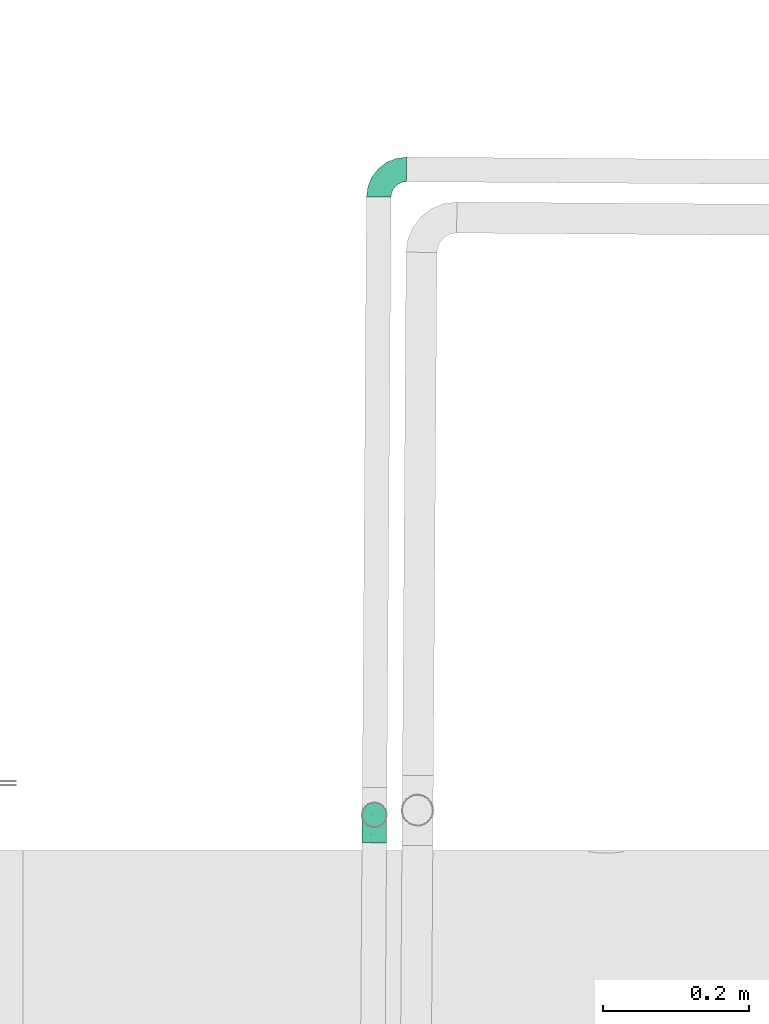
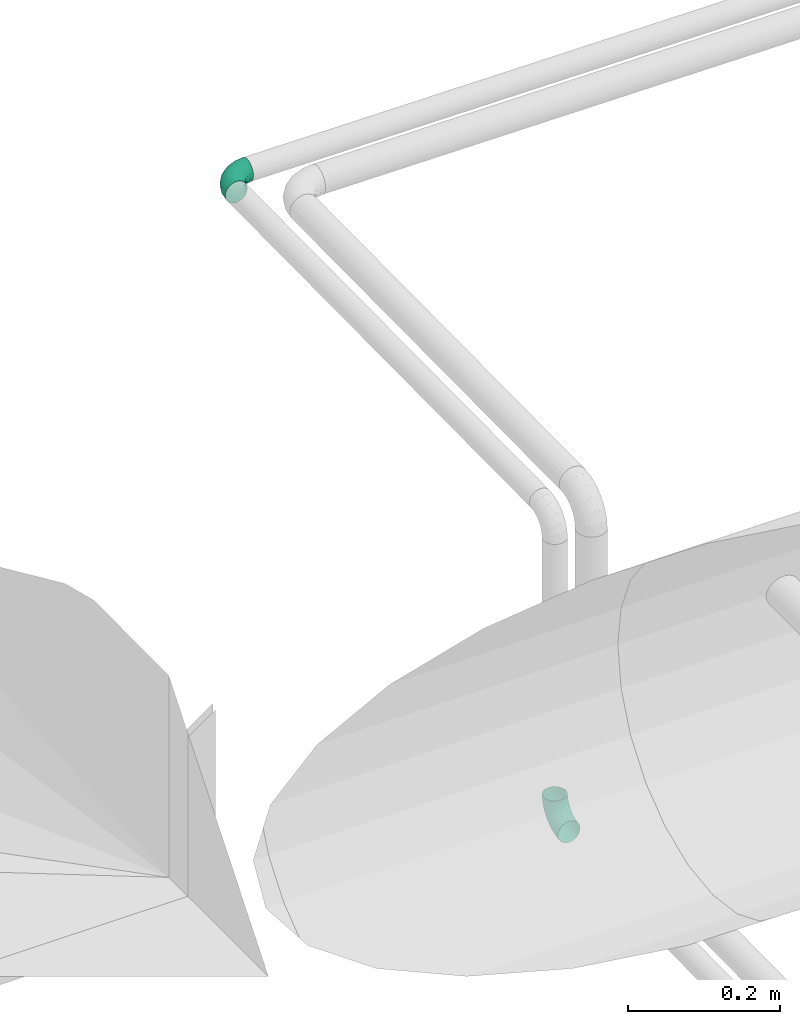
# One storey, part 356 of 374: 2 flow segments.
"""IFC2X3 building model written with IfcOpenShell, lengths in metres."""

from ifc_helpers import new_model, si_unit, direction, origin, place, context, subcontext, project, spatial, open_shell, surface_model, source, transform, mapped, element, save


model = new_model("IFC2X3")

# Units and contexts
model_context = context("Model", 3, precision=1e-05, world=origin(), true_north=direction((-0.4480736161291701, 0.8939966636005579)))
body_context = subcontext(model_context, "Body", "Model", "MODEL_VIEW")
ifc_project = project(units=[si_unit("LENGTHUNIT", "METRE"), si_unit("AREAUNIT", "SQUARE_METRE"), si_unit("VOLUMEUNIT", "CUBIC_METRE"), si_unit("PLANEANGLEUNIT", "RADIAN"), si_unit("THERMODYNAMICTEMPERATUREUNIT", "KELVIN"), si_unit("MASSUNIT", "GRAM", prefix="KILO"), si_unit("TIMEUNIT", "SECOND")], contexts=[model_context])

# Site, building, storey
site_placement = place(None, origin())
site = spatial("IfcSite", under=ifc_project, at=site_placement, Name="Site 1", CompositionType="ELEMENT")
building_placement = place(site_placement, origin())
building = spatial("IfcBuilding", under=site, at=building_placement, Name="Undefined", CompositionType="ELEMENT")
storey_placement = place(building_placement, origin())
storey = spatial("IfcBuildingStorey", under=building, at=storey_placement, Name="Rez de chauss\x8ee", CompositionType="ELEMENT", Elevation=0.0)

# Flow segments
shared_shape_1 = source(origin(), body_context, "Body", "SurfaceModel", [
    surface_model("IfcFaceBasedSurfaceModel", [(0.014318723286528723, 0.0, 8.8817842e-16), (0.01424378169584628, 0.004398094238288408, 0.0), (7.494159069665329e-05, 0.004398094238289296, 1.776356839e-15), (0.0, 0.0, 0.0), (-0.013611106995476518, 0.004872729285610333, -0.0036363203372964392), (-0.01383082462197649, 0.000479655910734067, -0.003674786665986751), (-0.02588168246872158, 0.005789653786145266, -0.010661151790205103), (-0.026231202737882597, 0.0014062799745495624, -0.010773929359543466), (-0.03590056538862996, 0.007086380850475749, -0.02059576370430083), (-0.036356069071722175, 0.0027167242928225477, -0.020813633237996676), (-0.04298498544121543, 0.008674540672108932, -0.03276312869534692), (-0.0435154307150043, 0.0043216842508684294, -0.03310970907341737), (-0.046652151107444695, 0.010445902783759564, -0.04633406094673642), (-0.04722138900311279, 0.006111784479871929, -0.04682419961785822), (0.01402406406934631, 0.008643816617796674, -0.00112889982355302), (0.0002946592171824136, 0.00864381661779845, -0.001128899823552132), (-0.01296692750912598, 0.009103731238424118, -0.00465244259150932), (-0.02485694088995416, 0.009992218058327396, -0.011459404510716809), (-0.03456509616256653, 0.011248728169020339, -0.021085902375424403), (-0.041429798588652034, 0.012787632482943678, -0.03287590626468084), (-0.04498323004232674, 0.014504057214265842, -0.04602594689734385), (0.013674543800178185, 0.012447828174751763, -0.0033097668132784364), (0.0006441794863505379, 0.012447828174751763, -0.003309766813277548), (-0.011942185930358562, 0.012884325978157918, -0.006653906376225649), (-0.023226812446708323, 0.013727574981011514, -0.01311428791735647), (-0.032440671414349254, 0.014920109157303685, -0.022250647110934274), (-0.038955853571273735, 0.016380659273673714, -0.03344035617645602), (-0.04232836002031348, 0.01800969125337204, -0.04592085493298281), (0.013219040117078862, 0.01555089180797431, -0.006393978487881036), (0.0010996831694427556, 0.015550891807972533, -0.006393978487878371), (-0.010606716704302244, 0.015956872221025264, -0.009504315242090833), (-0.021102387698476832, 0.016741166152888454, -0.01551302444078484), (-0.029672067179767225, 0.01785032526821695, -0.024010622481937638), (-0.035731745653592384, 0.01920876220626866, -0.03441801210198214), (-0.038868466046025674, 0.02072390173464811, -0.04602594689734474), (0.012688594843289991, 0.01774153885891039, -0.010171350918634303), (0.0016301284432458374, 0.01774153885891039, -0.010171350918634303), (-0.009051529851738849, 0.018111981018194, -0.013009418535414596), (-0.01862844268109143, 0.01882762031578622, -0.018492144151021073), (-0.026447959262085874, 0.019839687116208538, -0.02624588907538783), (-0.03197719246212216, 0.021079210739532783, -0.03574224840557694), (-0.034839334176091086, 0.022461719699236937, -0.04633406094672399), (0.012119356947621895, 0.018870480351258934, -0.014384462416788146), (0.0021993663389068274, 0.018870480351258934, -0.014384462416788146), (-0.007382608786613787, 0.019202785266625, -0.016930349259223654), (-0.015973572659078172, 0.019844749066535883, -0.021848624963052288), (-0.022988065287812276, 0.020752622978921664, -0.02880411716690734), (-0.027948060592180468, 0.021864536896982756, -0.03732282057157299), (-0.030515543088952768, 0.023104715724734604, -0.04682419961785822), (0.0115501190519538, 0.018860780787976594, -0.01874619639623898), (0.002768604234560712, 0.018860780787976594, -0.01874619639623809), (-0.005713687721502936, 0.019154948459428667, -0.020999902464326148), (-0.013318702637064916, 0.01972323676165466, -0.025353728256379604), (-0.019528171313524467, 0.02052691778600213, -0.03151096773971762), (-0.023918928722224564, 0.021511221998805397, -0.03905201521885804), (-0.02619175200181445, 0.02260907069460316, -0.04746296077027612), (0.011019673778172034, 0.01771310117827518, -0.022959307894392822), (0.0032990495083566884, 0.01771310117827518, -0.022959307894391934), (-0.004158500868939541, 0.017971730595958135, -0.0249407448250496), (-0.010844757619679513, 0.018471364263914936, -0.028768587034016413), (-0.01630406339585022, 0.019177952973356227, -0.03418197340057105), (-0.020164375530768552, 0.0200433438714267, -0.04081199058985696), (-0.022162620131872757, 0.02100856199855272, -0.04820681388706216), (0.010564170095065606, 0.015505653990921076, -0.02673668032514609), (0.0037545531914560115, 0.015505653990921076, -0.0267366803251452), (-0.002823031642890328, 0.01573376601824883, -0.028484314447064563), (-0.008720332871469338, 0.016174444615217, -0.03186048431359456), (-0.01353545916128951, 0.016797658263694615, -0.036635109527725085), (-0.016940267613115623, 0.017560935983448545, -0.042482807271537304), (-0.018702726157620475, 0.01841226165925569, -0.04900506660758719), (0.010214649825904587, 0.012388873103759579, -0.029820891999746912), (0.004104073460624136, 0.012388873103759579, -0.029820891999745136), (-0.0017982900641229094, 0.012593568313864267, -0.03138912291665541), (-0.007090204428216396, 0.012989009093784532, -0.03441871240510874), (-0.011411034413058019, 0.013548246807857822, -0.0387031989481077), (-0.014466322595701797, 0.014233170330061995, -0.04395060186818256), (-0.01604785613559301, 0.014997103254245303, -0.0498033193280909), (0.009994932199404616, 0.008575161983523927, -0.03200175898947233), (0.004323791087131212, 0.00857516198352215, -0.03200175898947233), (-0.001154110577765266, 0.00876513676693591, -0.03345721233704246), (-0.006065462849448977, 0.009132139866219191, -0.03626893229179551), (-0.0100755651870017, 0.009651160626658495, -0.04024530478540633), (-0.012911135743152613, 0.010286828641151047, -0.04511534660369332), (-0.014378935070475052, 0.010995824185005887, -0.05054717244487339), (0.009919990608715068, 0.004324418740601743, -0.03313065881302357), (0.004398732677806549, 0.004324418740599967, -0.03313065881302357), (-0.0009343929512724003, 0.004509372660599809, -0.03454764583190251), (-0.005715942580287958, 0.004866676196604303, -0.03728505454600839), (-0.009620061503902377, 0.005371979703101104, -0.041156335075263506), (-0.012380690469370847, 0.005990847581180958, -0.04589766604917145), (-0.013809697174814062, 0.006681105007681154, -0.05118593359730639), (0.00999493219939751, -7.367549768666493e-05, -0.03313065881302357), (0.004323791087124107, -7.367549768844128e-05, -0.03313065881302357), (-0.0011541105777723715, 0.00011629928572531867, -0.03458611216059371), (-0.0060654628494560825, 0.00048330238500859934, -0.03739783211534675), (-0.010075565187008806, 0.0010023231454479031, -0.04137420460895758), (-0.012911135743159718, 0.001637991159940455, -0.04624424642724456), (-0.014378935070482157, 0.002346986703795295, -0.05167607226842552), (0.010214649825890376, -0.004319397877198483, -0.03200175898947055), (0.00410407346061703, -0.0043193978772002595, -0.03200175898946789), (-0.0017982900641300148, -0.004114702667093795, -0.03356998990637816), (-0.007090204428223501, -0.0037192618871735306, -0.036599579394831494), (-0.011411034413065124, -0.00316002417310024, -0.04088406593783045), (-0.014466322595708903, -0.002475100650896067, -0.04613146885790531), (-0.016047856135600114, -0.0017111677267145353, -0.05198418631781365), (0.0105641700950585, -0.008123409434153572, -0.029820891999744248), (0.003754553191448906, -0.008123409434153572, -0.02982089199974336), (-0.0028230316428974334, -0.007895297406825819, -0.03156852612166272), (-0.008720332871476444, -0.007454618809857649, -0.03494469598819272), (-0.013535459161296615, -0.006831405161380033, -0.03971932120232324), (-0.016940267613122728, -0.006068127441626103, -0.04556701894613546), (-0.01870272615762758, -0.005216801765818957, -0.05208927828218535), (0.011019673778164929, -0.011226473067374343, -0.026736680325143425), (0.003299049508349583, -0.011226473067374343, -0.026736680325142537), (-0.004158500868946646, -0.010967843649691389, -0.028718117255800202), (-0.010844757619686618, -0.010468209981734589, -0.032545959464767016), (-0.016304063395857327, -0.009761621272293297, -0.037959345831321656), (-0.020164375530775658, -0.008896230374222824, -0.044589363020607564), (-0.022162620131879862, -0.007931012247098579, -0.051984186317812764), (0.011550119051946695, -0.013417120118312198, -0.02295930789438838), (0.0027686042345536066, -0.013417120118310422, -0.022959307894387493), (-0.005713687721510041, -0.013122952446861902, -0.02521301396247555), (-0.013318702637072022, -0.012554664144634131, -0.029566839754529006), (-0.019528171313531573, -0.011750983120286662, -0.035724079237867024), (-0.02391892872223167, -0.010766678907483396, -0.04326512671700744), (-0.026191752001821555, -0.009668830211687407, -0.05167607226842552), (0.01211935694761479, -0.014546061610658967, -0.018746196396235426), (0.002199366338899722, -0.014546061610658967, -0.018746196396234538), (-0.007382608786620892, -0.0142137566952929, -0.021292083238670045), (-0.015973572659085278, -0.013571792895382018, -0.02621035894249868), (-0.02298806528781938, -0.012663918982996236, -0.03316585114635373), (-0.027948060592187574, -0.011552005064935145, -0.04168455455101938), (-0.030515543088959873, -0.010311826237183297, -0.05118593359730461), (0.012688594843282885, -0.014536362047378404, -0.014384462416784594), (0.001630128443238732, -0.014536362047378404, -0.014384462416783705), (-0.009051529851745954, -0.014165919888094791, -0.017222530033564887), (-0.018628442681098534, -0.013450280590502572, -0.022705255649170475), (-0.02644795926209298, -0.012438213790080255, -0.03045900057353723), (-0.03197719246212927, -0.011198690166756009, -0.03995535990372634), (-0.03483933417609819, -0.009816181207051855, -0.05054717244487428), (0.013219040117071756, -0.013388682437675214, -0.010171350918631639), (0.0010996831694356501, -0.01338868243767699, -0.010171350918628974), (-0.010606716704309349, -0.01298270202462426, -0.013281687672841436), (-0.021102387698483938, -0.01219840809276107, -0.019290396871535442), (-0.02967206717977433, -0.011089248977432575, -0.02778799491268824), (-0.03573174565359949, -0.009730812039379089, -0.038195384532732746), (-0.03886846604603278, -0.008215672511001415, -0.04980331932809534), (0.01367454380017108, -0.011181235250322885, -0.006393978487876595), (0.0006441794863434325, -0.011181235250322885, -0.006393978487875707), (-0.011942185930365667, -0.01074473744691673, -0.009738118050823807), (-0.023226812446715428, -0.009901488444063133, -0.01619849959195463), (-0.03244067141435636, -0.008708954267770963, -0.02533485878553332), (-0.03895585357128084, -0.007248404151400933, -0.03652456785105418), (-0.04232836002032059, -0.005619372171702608, -0.04900506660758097), (0.014024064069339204, -0.008064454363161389, -0.003309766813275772), (0.0002946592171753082, -0.008064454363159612, -0.0033097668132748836), (-0.012966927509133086, -0.0076045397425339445, -0.006833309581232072), (-0.024856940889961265, -0.0067160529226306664, -0.01364027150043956), (-0.03456509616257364, -0.005459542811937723, -0.023266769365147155), (-0.04142979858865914, -0.003920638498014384, -0.03505677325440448), (-0.044983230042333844, -0.00220421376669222, -0.0482068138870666), (0.014243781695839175, -0.004250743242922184, -0.0011288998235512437), (7.494159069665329e-05, -0.0042507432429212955, -0.0011288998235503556), (-0.013611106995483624, -0.0037761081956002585, -0.004765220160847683), (-0.025881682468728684, -0.002859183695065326, -0.011790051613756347), (-0.03590056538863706, -0.001562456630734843, -0.021724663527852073), (-0.042984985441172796, 2.5703190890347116e-05, -0.03389202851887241), (-0.0466521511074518, 0.0017970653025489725, -0.047462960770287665)], [open_shell([[[0, 1, 2, 3]], [[3, 2, 4, 5]], [[5, 4, 6, 7]], [[7, 6, 8, 9]], [[9, 8, 10, 11]], [[11, 10, 12, 13]], [[1, 14, 15, 2]], [[2, 15, 16, 4]], [[4, 16, 17, 6]], [[6, 17, 18, 8]], [[8, 18, 19, 10]], [[10, 19, 20, 12]], [[14, 21, 22, 15]], [[15, 22, 23, 16]], [[16, 23, 24, 17]], [[17, 24, 25, 18]], [[18, 25, 26, 19]], [[19, 26, 27, 20]], [[21, 28, 29, 22]], [[22, 29, 30, 23]], [[23, 30, 31, 24]], [[24, 31, 32, 25]], [[25, 32, 33, 26]], [[26, 33, 34, 27]], [[28, 35, 36, 29]], [[29, 36, 37, 30]], [[30, 37, 38, 31]], [[31, 38, 39, 32]], [[32, 39, 40, 33]], [[33, 40, 41, 34]], [[35, 42, 43, 36]], [[36, 43, 44, 37]], [[37, 44, 45, 38]], [[38, 45, 46, 39]], [[39, 46, 47, 40]], [[40, 47, 48, 41]], [[42, 49, 50, 43]], [[43, 50, 51, 44]], [[44, 51, 52, 45]], [[45, 52, 53, 46]], [[46, 53, 54, 47]], [[47, 54, 55, 48]], [[49, 56, 57, 50]], [[50, 57, 58, 51]], [[51, 58, 59, 52]], [[52, 59, 60, 53]], [[53, 60, 61, 54]], [[54, 61, 62, 55]], [[56, 63, 64, 57]], [[57, 64, 65, 58]], [[58, 65, 66, 59]], [[59, 66, 67, 60]], [[60, 67, 68, 61]], [[61, 68, 69, 62]], [[63, 70, 71, 64]], [[64, 71, 72, 65]], [[65, 72, 73, 66]], [[66, 73, 74, 67]], [[67, 74, 75, 68]], [[68, 75, 76, 69]], [[70, 77, 78, 71]], [[71, 78, 79, 72]], [[72, 79, 80, 73]], [[73, 80, 81, 74]], [[74, 81, 82, 75]], [[75, 82, 83, 76]], [[77, 84, 85, 78]], [[78, 85, 86, 79]], [[79, 86, 87, 80]], [[80, 87, 88, 81]], [[81, 88, 89, 82]], [[82, 89, 90, 83]], [[84, 91, 92, 85]], [[85, 92, 93, 86]], [[86, 93, 94, 87]], [[87, 94, 95, 88]], [[88, 95, 96, 89]], [[89, 96, 97, 90]], [[91, 98, 99, 92]], [[92, 99, 100, 93]], [[93, 100, 101, 94]], [[94, 101, 102, 95]], [[95, 102, 103, 96]], [[96, 103, 104, 97]], [[98, 105, 106, 99]], [[99, 106, 107, 100]], [[100, 107, 108, 101]], [[101, 108, 109, 102]], [[102, 109, 110, 103]], [[103, 110, 111, 104]], [[105, 112, 113, 106]], [[106, 113, 114, 107]], [[107, 114, 115, 108]], [[108, 115, 116, 109]], [[109, 116, 117, 110]], [[110, 117, 118, 111]], [[112, 119, 120, 113]], [[113, 120, 121, 114]], [[114, 121, 122, 115]], [[115, 122, 123, 116]], [[116, 123, 124, 117]], [[117, 124, 125, 118]], [[119, 126, 127, 120]], [[120, 127, 128, 121]], [[121, 128, 129, 122]], [[122, 129, 130, 123]], [[123, 130, 131, 124]], [[124, 131, 132, 125]], [[126, 133, 134, 127]], [[127, 134, 135, 128]], [[128, 135, 136, 129]], [[129, 136, 137, 130]], [[130, 137, 138, 131]], [[131, 138, 139, 132]], [[133, 140, 141, 134]], [[134, 141, 142, 135]], [[135, 142, 143, 136]], [[136, 143, 144, 137]], [[137, 144, 145, 138]], [[138, 145, 146, 139]], [[140, 147, 148, 141]], [[141, 148, 149, 142]], [[142, 149, 150, 143]], [[143, 150, 151, 144]], [[144, 151, 152, 145]], [[145, 152, 153, 146]], [[147, 154, 155, 148]], [[148, 155, 156, 149]], [[149, 156, 157, 150]], [[150, 157, 158, 151]], [[151, 158, 159, 152]], [[152, 159, 160, 153]], [[154, 161, 162, 155]], [[155, 162, 163, 156]], [[156, 163, 164, 157]], [[157, 164, 165, 158]], [[158, 165, 166, 159]], [[159, 166, 167, 160]], [[161, 0, 3, 162]], [[162, 3, 5, 163]], [[163, 5, 7, 164]], [[164, 7, 9, 165]], [[165, 9, 11, 166]], [[166, 11, 13, 167]]])]),
])
flow_segment_1_placement = place(storey_placement, origin())
element("IfcFlowSegment", 1, at=flow_segment_1_placement, inside=storey, Name="Tube coudé", ObjectType="Tube coudé", context=body_context, shape_type="MappedRepresentation", body=[
    mapped(shared_shape_1, transform((52.89743090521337, 18.914182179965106, 4.0051404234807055), x_axis=(0.9923319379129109, 0.12360147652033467, 0.0), y_axis=(0.0159975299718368, -0.12843584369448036, -0.9915887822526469), z_axis=(-0.12256183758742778, 0.9839852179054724, -0.12942830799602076))),
])
shared_shape_2 = source(origin(), body_context, "Body", "SurfaceModel", [
    surface_model("IfcFaceBasedSurfaceModel", [(0.014318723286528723, 0.0, 8.8817842e-16), (0.01424378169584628, 0.004398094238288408, 0.0), (7.494159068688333e-05, 0.004398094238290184, 0.0), (0.0, 0.0, 0.0), (-0.013611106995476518, 0.004872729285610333, -0.0036363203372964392), (-0.01383082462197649, 0.000479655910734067, -0.003674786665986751), (-0.02588168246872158, 0.005789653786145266, -0.010661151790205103), (-0.026231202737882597, 0.0014062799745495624, -0.010773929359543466), (-0.03590056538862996, 0.007086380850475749, -0.02059576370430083), (-0.036356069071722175, 0.0027167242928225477, -0.020813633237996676), (-0.04298498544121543, 0.008674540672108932, -0.03276312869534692), (-0.0435154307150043, 0.0043216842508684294, -0.03310970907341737), (-0.046652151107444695, 0.010445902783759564, -0.04633406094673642), (-0.04722138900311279, 0.006111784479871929, -0.04682419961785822), (0.01402406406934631, 0.008643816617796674, -0.00112889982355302), (0.0002946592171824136, 0.00864381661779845, -0.001128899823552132), (-0.01296692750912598, 0.009103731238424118, -0.00465244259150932), (-0.02485694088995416, 0.009992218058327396, -0.011459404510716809), (-0.03456509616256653, 0.011248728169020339, -0.021085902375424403), (-0.041429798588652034, 0.012787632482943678, -0.03287590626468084), (-0.04498323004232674, 0.014504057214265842, -0.04602594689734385), (0.013674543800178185, 0.012447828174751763, -0.0033097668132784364), (0.0006441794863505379, 0.012447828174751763, -0.003309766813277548), (-0.011942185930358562, 0.012884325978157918, -0.006653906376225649), (-0.023226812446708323, 0.013727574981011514, -0.01311428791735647), (-0.032440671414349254, 0.014920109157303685, -0.022250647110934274), (-0.038955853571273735, 0.016380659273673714, -0.03344035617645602), (-0.04232836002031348, 0.01800969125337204, -0.04592085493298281), (0.013219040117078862, 0.01555089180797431, -0.006393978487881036), (0.0010996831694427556, 0.015550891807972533, -0.006393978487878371), (-0.010606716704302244, 0.015956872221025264, -0.009504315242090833), (-0.021102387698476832, 0.016741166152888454, -0.01551302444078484), (-0.029672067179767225, 0.01785032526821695, -0.024010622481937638), (-0.035731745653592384, 0.01920876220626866, -0.03441801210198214), (-0.038868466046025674, 0.02072390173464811, -0.04602594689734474), (0.012688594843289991, 0.01774153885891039, -0.010171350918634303), (0.0016301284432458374, 0.01774153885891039, -0.010171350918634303), (-0.009051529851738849, 0.018111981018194, -0.013009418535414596), (-0.01862844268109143, 0.01882762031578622, -0.018492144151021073), (-0.026447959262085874, 0.019839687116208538, -0.02624588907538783), (-0.03197719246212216, 0.021079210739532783, -0.03574224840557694), (-0.034839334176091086, 0.022461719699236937, -0.04633406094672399), (0.012119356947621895, 0.018870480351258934, -0.014384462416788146), (0.0021993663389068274, 0.018870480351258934, -0.014384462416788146), (-0.007382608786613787, 0.019202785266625, -0.016930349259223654), (-0.015973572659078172, 0.019844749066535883, -0.021848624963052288), (-0.022988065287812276, 0.020752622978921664, -0.02880411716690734), (-0.027948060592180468, 0.021864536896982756, -0.03732282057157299), (-0.030515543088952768, 0.023104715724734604, -0.04682419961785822), (0.0115501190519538, 0.018860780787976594, -0.01874619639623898), (0.002768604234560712, 0.018860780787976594, -0.01874619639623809), (-0.005713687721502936, 0.019154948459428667, -0.020999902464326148), (-0.013318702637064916, 0.01972323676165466, -0.025353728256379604), (-0.019528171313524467, 0.02052691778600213, -0.03151096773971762), (-0.023918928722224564, 0.021511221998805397, -0.03905201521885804), (-0.02619175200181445, 0.02260907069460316, -0.04746296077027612), (0.011019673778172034, 0.01771310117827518, -0.022959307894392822), (0.0032990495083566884, 0.01771310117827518, -0.022959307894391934), (-0.004158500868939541, 0.017971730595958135, -0.0249407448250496), (-0.010844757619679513, 0.018471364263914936, -0.028768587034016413), (-0.01630406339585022, 0.019177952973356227, -0.03418197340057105), (-0.020164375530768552, 0.0200433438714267, -0.04081199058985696), (-0.022162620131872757, 0.02100856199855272, -0.04820681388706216), (0.010564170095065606, 0.015505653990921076, -0.02673668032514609), (0.0037545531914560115, 0.015505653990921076, -0.0267366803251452), (-0.002823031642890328, 0.01573376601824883, -0.028484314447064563), (-0.008720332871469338, 0.016174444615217, -0.03186048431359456), (-0.01353545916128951, 0.016797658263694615, -0.036635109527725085), (-0.016940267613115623, 0.017560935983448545, -0.042482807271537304), (-0.018702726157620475, 0.01841226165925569, -0.04900506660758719), (0.010214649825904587, 0.012388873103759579, -0.029820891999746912), (0.004104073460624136, 0.012388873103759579, -0.029820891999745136), (-0.0017982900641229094, 0.012593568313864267, -0.03138912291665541), (-0.007090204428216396, 0.012989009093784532, -0.03441871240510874), (-0.011411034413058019, 0.013548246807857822, -0.0387031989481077), (-0.014466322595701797, 0.014233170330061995, -0.04395060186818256), (-0.01604785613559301, 0.014997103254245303, -0.0498033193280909), (0.009994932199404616, 0.008575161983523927, -0.03200175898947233), (0.004323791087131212, 0.00857516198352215, -0.03200175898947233), (-0.001154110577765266, 0.00876513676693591, -0.03345721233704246), (-0.006065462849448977, 0.009132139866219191, -0.03626893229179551), (-0.0100755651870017, 0.009651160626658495, -0.04024530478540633), (-0.012911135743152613, 0.010286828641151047, -0.04511534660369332), (-0.014378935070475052, 0.010995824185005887, -0.05054717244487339), (0.009919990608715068, 0.004324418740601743, -0.03313065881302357), (0.004398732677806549, 0.004324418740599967, -0.03313065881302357), (-0.0009343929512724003, 0.004509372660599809, -0.03454764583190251), (-0.005715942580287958, 0.004866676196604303, -0.03728505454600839), (-0.009620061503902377, 0.005371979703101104, -0.041156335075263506), (-0.012380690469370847, 0.005990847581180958, -0.04589766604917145), (-0.013809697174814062, 0.006681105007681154, -0.05118593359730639), (0.00999493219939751, -7.367549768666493e-05, -0.03313065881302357), (0.004323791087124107, -7.367549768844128e-05, -0.03313065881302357), (-0.0011541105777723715, 0.00011629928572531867, -0.03458611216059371), (-0.0060654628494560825, 0.00048330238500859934, -0.03739783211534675), (-0.010075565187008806, 0.0010023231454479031, -0.04137420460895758), (-0.012911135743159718, 0.001637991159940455, -0.04624424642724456), (-0.014378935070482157, 0.002346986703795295, -0.05167607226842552), (0.010214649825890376, -0.004319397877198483, -0.03200175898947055), (0.00410407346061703, -0.0043193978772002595, -0.03200175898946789), (-0.0017982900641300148, -0.004114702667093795, -0.03356998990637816), (-0.007090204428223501, -0.0037192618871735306, -0.036599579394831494), (-0.011411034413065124, -0.00316002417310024, -0.04088406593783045), (-0.014466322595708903, -0.002475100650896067, -0.04613146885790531), (-0.016047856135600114, -0.0017111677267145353, -0.05198418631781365), (0.0105641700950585, -0.008123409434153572, -0.029820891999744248), (0.003754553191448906, -0.008123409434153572, -0.02982089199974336), (-0.0028230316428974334, -0.007895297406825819, -0.03156852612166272), (-0.008720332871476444, -0.007454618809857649, -0.03494469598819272), (-0.013535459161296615, -0.006831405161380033, -0.03971932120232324), (-0.016940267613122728, -0.006068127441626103, -0.04556701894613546), (-0.01870272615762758, -0.005216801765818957, -0.05208927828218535), (0.011019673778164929, -0.011226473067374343, -0.026736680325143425), (0.003299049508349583, -0.011226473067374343, -0.026736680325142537), (-0.004158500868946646, -0.010967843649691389, -0.028718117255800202), (-0.010844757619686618, -0.010468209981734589, -0.032545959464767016), (-0.016304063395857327, -0.009761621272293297, -0.037959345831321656), (-0.020164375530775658, -0.008896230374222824, -0.044589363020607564), (-0.022162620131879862, -0.007931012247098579, -0.051984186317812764), (0.011550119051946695, -0.013417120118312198, -0.02295930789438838), (0.0027686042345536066, -0.013417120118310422, -0.022959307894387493), (-0.005713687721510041, -0.013122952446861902, -0.02521301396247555), (-0.013318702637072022, -0.012554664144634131, -0.029566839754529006), (-0.019528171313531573, -0.011750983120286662, -0.035724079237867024), (-0.02391892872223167, -0.010766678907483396, -0.04326512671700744), (-0.026191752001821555, -0.009668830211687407, -0.05167607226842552), (0.01211935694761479, -0.014546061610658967, -0.018746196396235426), (0.002199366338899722, -0.014546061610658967, -0.018746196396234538), (-0.007382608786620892, -0.0142137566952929, -0.021292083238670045), (-0.015973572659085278, -0.013571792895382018, -0.02621035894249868), (-0.02298806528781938, -0.012663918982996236, -0.03316585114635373), (-0.027948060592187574, -0.011552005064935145, -0.04168455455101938), (-0.030515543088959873, -0.010311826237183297, -0.05118593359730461), (0.012688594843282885, -0.014536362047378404, -0.014384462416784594), (0.001630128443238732, -0.014536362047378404, -0.014384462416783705), (-0.009051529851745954, -0.014165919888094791, -0.017222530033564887), (-0.018628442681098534, -0.013450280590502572, -0.022705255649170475), (-0.02644795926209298, -0.012438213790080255, -0.03045900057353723), (-0.03197719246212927, -0.011198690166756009, -0.03995535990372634), (-0.03483933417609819, -0.009816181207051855, -0.05054717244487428), (0.013219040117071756, -0.013388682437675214, -0.010171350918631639), (0.0010996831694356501, -0.01338868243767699, -0.010171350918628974), (-0.010606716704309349, -0.01298270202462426, -0.013281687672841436), (-0.021102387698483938, -0.01219840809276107, -0.019290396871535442), (-0.02967206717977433, -0.011089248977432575, -0.02778799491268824), (-0.03573174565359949, -0.009730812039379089, -0.038195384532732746), (-0.03886846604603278, -0.008215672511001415, -0.04980331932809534), (0.01367454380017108, -0.011181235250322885, -0.006393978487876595), (0.0006441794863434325, -0.011181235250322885, -0.006393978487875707), (-0.011942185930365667, -0.01074473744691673, -0.009738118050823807), (-0.023226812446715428, -0.009901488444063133, -0.01619849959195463), (-0.03244067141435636, -0.008708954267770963, -0.02533485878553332), (-0.03895585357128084, -0.007248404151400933, -0.03652456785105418), (-0.04232836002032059, -0.005619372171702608, -0.04900506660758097), (0.014024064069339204, -0.008064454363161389, -0.003309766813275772), (0.0002946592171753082, -0.008064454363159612, -0.0033097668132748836), (-0.012966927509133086, -0.0076045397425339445, -0.006833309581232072), (-0.024856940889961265, -0.0067160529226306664, -0.01364027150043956), (-0.03456509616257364, -0.005459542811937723, -0.023266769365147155), (-0.04142979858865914, -0.003920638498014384, -0.03505677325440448), (-0.044983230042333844, -0.00220421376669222, -0.0482068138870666), (0.014243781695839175, -0.004250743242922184, -0.0011288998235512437), (7.494159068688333e-05, -0.004250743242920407, -0.0011288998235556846), (-0.013611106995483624, -0.0037761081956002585, -0.004765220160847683), (-0.025881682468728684, -0.002859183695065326, -0.011790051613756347), (-0.03590056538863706, -0.001562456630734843, -0.021724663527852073), (-0.0429849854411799, 2.5703190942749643e-05, -0.03389202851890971), (-0.0466521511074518, 0.0017970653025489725, -0.047462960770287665), (7.494159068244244e-05, -0.004250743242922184, -0.0011288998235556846)], [open_shell([[[0, 1, 2, 3]], [[3, 2, 4, 5]], [[5, 4, 6, 7]], [[7, 6, 8, 9]], [[9, 8, 10, 11]], [[11, 10, 12, 13]], [[1, 14, 15, 2]], [[2, 15, 16, 4]], [[4, 16, 17, 6]], [[6, 17, 18, 8]], [[8, 18, 19, 10]], [[10, 19, 20, 12]], [[14, 21, 22, 15]], [[15, 22, 23, 16]], [[16, 23, 24, 17]], [[17, 24, 25, 18]], [[18, 25, 26, 19]], [[19, 26, 27, 20]], [[21, 28, 29, 22]], [[22, 29, 30, 23]], [[23, 30, 31, 24]], [[24, 31, 32, 25]], [[25, 32, 33, 26]], [[26, 33, 34, 27]], [[28, 35, 36, 29]], [[29, 36, 37, 30]], [[30, 37, 38, 31]], [[31, 38, 39, 32]], [[32, 39, 40, 33]], [[33, 40, 41, 34]], [[35, 42, 43, 36]], [[36, 43, 44, 37]], [[37, 44, 45, 38]], [[38, 45, 46, 39]], [[39, 46, 47, 40]], [[40, 47, 48, 41]], [[42, 49, 50, 43]], [[43, 50, 51, 44]], [[44, 51, 52, 45]], [[45, 52, 53, 46]], [[46, 53, 54, 47]], [[47, 54, 55, 48]], [[49, 56, 57, 50]], [[50, 57, 58, 51]], [[51, 58, 59, 52]], [[52, 59, 60, 53]], [[53, 60, 61, 54]], [[54, 61, 62, 55]], [[56, 63, 64, 57]], [[57, 64, 65, 58]], [[58, 65, 66, 59]], [[59, 66, 67, 60]], [[60, 67, 68, 61]], [[61, 68, 69, 62]], [[63, 70, 71, 64]], [[64, 71, 72, 65]], [[65, 72, 73, 66]], [[66, 73, 74, 67]], [[67, 74, 75, 68]], [[68, 75, 76, 69]], [[70, 77, 78, 71]], [[71, 78, 79, 72]], [[72, 79, 80, 73]], [[73, 80, 81, 74]], [[74, 81, 82, 75]], [[75, 82, 83, 76]], [[77, 84, 85, 78]], [[78, 85, 86, 79]], [[79, 86, 87, 80]], [[80, 87, 88, 81]], [[81, 88, 89, 82]], [[82, 89, 90, 83]], [[84, 91, 92, 85]], [[85, 92, 93, 86]], [[86, 93, 94, 87]], [[87, 94, 95, 88]], [[88, 95, 96, 89]], [[89, 96, 97, 90]], [[91, 98, 99, 92]], [[92, 99, 100, 93]], [[93, 100, 101, 94]], [[94, 101, 102, 95]], [[95, 102, 103, 96]], [[96, 103, 104, 97]], [[98, 105, 106, 99]], [[99, 106, 107, 100]], [[100, 107, 108, 101]], [[101, 108, 109, 102]], [[102, 109, 110, 103]], [[103, 110, 111, 104]], [[105, 112, 113, 106]], [[106, 113, 114, 107]], [[107, 114, 115, 108]], [[108, 115, 116, 109]], [[109, 116, 117, 110]], [[110, 117, 118, 111]], [[112, 119, 120, 113]], [[113, 120, 121, 114]], [[114, 121, 122, 115]], [[115, 122, 123, 116]], [[116, 123, 124, 117]], [[117, 124, 125, 118]], [[119, 126, 127, 120]], [[120, 127, 128, 121]], [[121, 128, 129, 122]], [[122, 129, 130, 123]], [[123, 130, 131, 124]], [[124, 131, 132, 125]], [[126, 133, 134, 127]], [[127, 134, 135, 128]], [[128, 135, 136, 129]], [[129, 136, 137, 130]], [[130, 137, 138, 131]], [[131, 138, 139, 132]], [[133, 140, 141, 134]], [[134, 141, 142, 135]], [[135, 142, 143, 136]], [[136, 143, 144, 137]], [[137, 144, 145, 138]], [[138, 145, 146, 139]], [[140, 147, 148, 141]], [[141, 148, 149, 142]], [[142, 149, 150, 143]], [[143, 150, 151, 144]], [[144, 151, 152, 145]], [[145, 152, 153, 146]], [[147, 154, 155, 148]], [[148, 155, 156, 149]], [[149, 156, 157, 150]], [[150, 157, 158, 151]], [[151, 158, 159, 152]], [[152, 159, 160, 153]], [[154, 161, 162, 155]], [[155, 162, 163, 156]], [[156, 163, 164, 157]], [[157, 164, 165, 158]], [[158, 165, 166, 159]], [[159, 166, 167, 160]], [[161, 0, 3, 162]], [[168, 3, 5, 163]], [[163, 5, 7, 164]], [[164, 7, 9, 165]], [[165, 9, 11, 166]], [[166, 11, 13, 167]]])]),
])
flow_segment_2_placement = place(storey_placement, origin())
element("IfcFlowSegment", 2, at=flow_segment_2_placement, inside=storey, Name="Tube coudé", ObjectType="Tube coudé", context=body_context, shape_type="MappedRepresentation", body=[
    mapped(shared_shape_2, transform((52.86744040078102, 18.02809603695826, 3.5407581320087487), x_axis=(0.0009112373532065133, 0.13052301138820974, 0.9914448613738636), y_axis=(0.9906687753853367, -0.1352404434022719, 0.01689378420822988), z_axis=(0.13628847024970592, 0.9821780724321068, -0.1294283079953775))),
])

save(model, "model.ifc")
